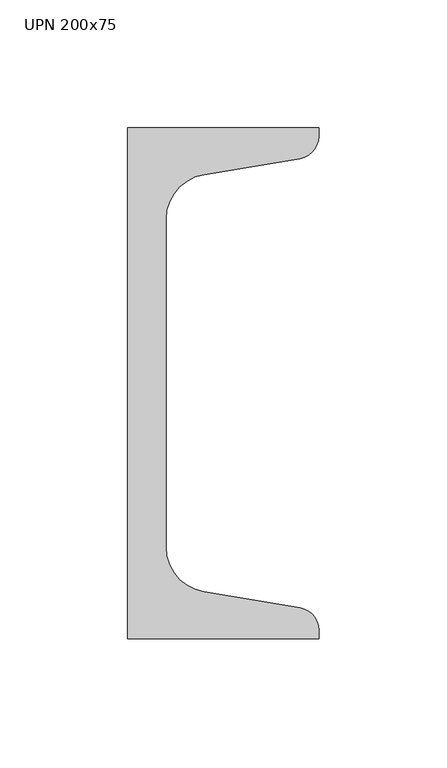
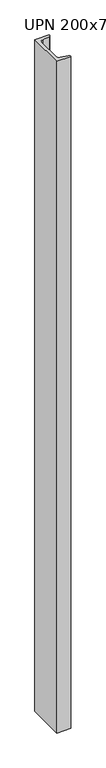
"""IFC4 building model written with IfcOpenShell, lengths in millimetres: column geometry, M_MC Shapes-Column : UPN 200x75."""

import ifcopenshell
import ifcopenshell.guid

model = None  # the IFC model being written
_history = None  # IfcOwnerHistory: only IFC2X3 demands one
_inside = {}  # id of a spatial element -> (the spatial element, [elements in it])
_under = {}  # id of a project, library or spatial element -> (it, [spatial elements below it])
_declared = {}  # id of a project -> (the project, [libraries it declares])
_typed = {}  # id of a type object -> (the type object, [elements of that type])
_made_of = {}  # id of a material, layer set ... -> (it, [elements and type objects made of it])


def new_model(schema):
    """Start an empty IFC model of exactly this schema.

    Asked for "IFC4X3", IfcOpenShell would pick the latest addendum, in which some entities
    have other attributes; the version numbers below select the first issue.
    IFC2X3 requires an IfcOwnerHistory on every rooted entity: one is made here for all.
    """
    global model, _history
    if schema == "IFC4X3":
        model = ifcopenshell.file(schema_version=(4, 3, 0, 0))
    else:
        model = ifcopenshell.file(schema=schema)
    _inside.clear()
    _under.clear()
    _declared.clear()
    _typed.clear()
    _made_of.clear()
    _history = None
    if model.schema == "IFC2X3":
        org = make("IfcOrganization", Name="unknown")
        user = make(
            "IfcPersonAndOrganization",
            ThePerson=make("IfcPerson", FamilyName="unknown"),
            TheOrganization=org,
        )
        app = make(
            "IfcApplication",
            ApplicationDeveloper=org,
            Version="unknown",
            ApplicationFullName="unknown",
            ApplicationIdentifier="unknown",
        )
        _history = make(
            "IfcOwnerHistory",
            OwningUser=user,
            OwningApplication=app,
            ChangeAction="ADDED",
            CreationDate=0,
        )
    return model


def make(cls, **values):
    """One entity of the class cls with the attributes given. An attribute that is None is left unset."""
    return model.create_entity(
        cls, **{name: value for name, value in values.items() if value is not None}
    )


def rooted(cls, **values):
    """An entity with a GlobalId (a new one), such as an element, a storey or a relation."""
    return make(cls, GlobalId=ifcopenshell.guid.new(), OwnerHistory=_history, **values)


def si_unit(unit_type, name, prefix=None):
    """IfcSIUnit, for example si_unit("LENGTHUNIT", "METRE", prefix="MILLI")."""
    return make("IfcSIUnit", UnitType=unit_type, Prefix=prefix, Name=name)


def assignment(units):
    """IfcUnitAssignment: the units of a project."""
    return None if units is None else make("IfcUnitAssignment", Units=units)


def point(xyz):
    """IfcCartesianPoint."""
    return None if xyz is None else make("IfcCartesianPoint", Coordinates=xyz)


def direction(xyz):
    """IfcDirection."""
    return None if xyz is None else make("IfcDirection", DirectionRatios=xyz)


def frame(location, z_axis=None, x_axis=None):
    """IfcAxis2Placement3D, a coordinate frame: its origin and axes. An axis left out is left unset."""
    return make(
        "IfcAxis2Placement3D",
        Location=point(location),
        Axis=direction(z_axis),
        RefDirection=direction(x_axis),
    )


def frame_2d(location, x_axis=None):
    """IfcAxis2Placement2D, a coordinate frame in the plane: its origin and x axis."""
    return make(
        "IfcAxis2Placement2D", Location=point(location), RefDirection=direction(x_axis)
    )


def origin():
    """The frame at (0, 0, 0) with its axes left unset."""
    return frame((0.0, 0.0, 0.0))


def place(relative_to, where):
    """IfcLocalPlacement: puts the frame where relative to a parent placement (None: the world)."""
    return make(
        "IfcLocalPlacement", PlacementRelTo=relative_to, RelativePlacement=where
    )


def context(
    kind, dimensions, precision=None, world=None, true_north=None, identifier=None
):
    """IfcGeometricRepresentationContext, for example the 3D "Model" context."""
    return make(
        "IfcGeometricRepresentationContext",
        ContextIdentifier=identifier,
        ContextType=kind,
        CoordinateSpaceDimension=dimensions,
        Precision=precision,
        WorldCoordinateSystem=world,
        TrueNorth=true_north,
    )


def project(units=None, contexts=None):
    """IfcProject with its units and contexts."""
    return rooted(
        "IfcProject",
        Name="project",
        RepresentationContexts=contexts,
        UnitsInContext=assignment(units),
    )


def spatial(cls, under=None, at=None, **own):
    """A site, building, storey or space (cls), placed at a placement, below another one or the project."""
    s = rooted(cls, ObjectPlacement=at, **own)
    if under is not None:
        _under.setdefault(under.id(), (under, []))[1].append(s)
    return s


def polyline(points):
    """IfcPolyline through the points."""
    return make("IfcPolyline", Points=[point(p) for p in points])


def circle_curve(where, radius):
    """IfcCircle in the frame where."""
    return make("IfcCircle", Position=where, Radius=radius)


def trimmed(basis, trim1, trim2, sense, master):
    """IfcTrimmedCurve: the piece of a basis curve between two trims."""
    return make(
        "IfcTrimmedCurve",
        BasisCurve=basis,
        Trim1=trim1,
        Trim2=trim2,
        SenseAgreement=sense,
        MasterRepresentation=master,
    )


def segment(curve, same_sense, transition):
    """IfcCompositeCurveSegment."""
    return make(
        "IfcCompositeCurveSegment",
        Transition=transition,
        SameSense=same_sense,
        ParentCurve=curve,
    )


def composite_curve(segments, self_intersect=None):
    """IfcCompositeCurve: segments joined end to end."""
    return make("IfcCompositeCurve", Segments=segments, SelfIntersect=self_intersect)


def outline(outer, holes=None, kind="AREA"):
    """IfcArbitraryClosedProfileDef: a profile drawn as a closed curve; with holes, ...WithVoids."""
    if holes is None:
        return make("IfcArbitraryClosedProfileDef", ProfileType=kind, OuterCurve=outer)
    return make(
        "IfcArbitraryProfileDefWithVoids",
        ProfileType=kind,
        OuterCurve=outer,
        InnerCurves=holes,
    )


def extrude(swept, where, along, depth):
    """IfcExtrudedAreaSolid: the profile swept, set in the frame where, extruded along a direction by depth."""
    return make(
        "IfcExtrudedAreaSolid",
        SweptArea=swept,
        Position=where,
        ExtrudedDirection=direction(along),
        Depth=depth,
    )


def shape(context_of_items, identifier, shape_type, items):
    """IfcShapeRepresentation: the items that make up one representation, for example the "Body"."""
    return make(
        "IfcShapeRepresentation",
        ContextOfItems=context_of_items,
        RepresentationIdentifier=identifier,
        RepresentationType=shape_type,
        Items=items,
    )


def source(mapping_origin, context_of_items, identifier, shape_type, items):
    """IfcRepresentationMap: a shape defined once, which mapped items show again and again."""
    return make(
        "IfcRepresentationMap",
        MappingOrigin=mapping_origin,
        MappedRepresentation=shape(context_of_items, identifier, shape_type, items),
    )


def transform(
    local_origin,
    x_axis=None,
    y_axis=None,
    z_axis=None,
    scale=None,
    scale2=None,
    scale3=None,
    uniform=True,
):
    """IfcCartesianTransformationOperator3D, or its non-uniform kind. x_axis, y_axis, z_axis: its Axis1, 2, 3."""
    if uniform:
        return make(
            "IfcCartesianTransformationOperator3D",
            Axis1=direction(x_axis),
            Axis2=direction(y_axis),
            LocalOrigin=point(local_origin),
            Scale=scale,
            Axis3=direction(z_axis),
        )
    return make(
        "IfcCartesianTransformationOperator3DnonUniform",
        Axis1=direction(x_axis),
        Axis2=direction(y_axis),
        LocalOrigin=point(local_origin),
        Scale=scale,
        Axis3=direction(z_axis),
        Scale2=scale2,
        Scale3=scale3,
    )


def mapped(mapping_source, mapping_target):
    """IfcMappedItem: shows the shape of a source again, moved by a transform."""
    return make(
        "IfcMappedItem", MappingSource=mapping_source, MappingTarget=mapping_target
    )


def made_of(thing, what):
    """Note that an element or type object is made of a material, layer set ...; save() writes the relation."""
    if what is not None:
        _made_of.setdefault(what.id(), (what, []))[1].append(thing)
    return thing


def element(
    cls,
    number,
    at=None,
    inside=None,
    cuts=None,
    type_object=None,
    material=None,
    context=None,
    identifier="Body",
    shape_type=None,
    held_by="IfcProductDefinitionShape",
    body=None,
    shapes=None,
    **own,
):
    """One element of the class cls, such as IfcWall. Its Tag is "e" and its number.

    at: its placement. inside: the storey or other place that contains it. cuts: it is an
    opening in that element (IfcRelVoidsElement). A single representation is given by context,
    identifier, shape_type and body (its items); several are given by shapes. held_by: the class
    of the entity that holds the representations. save() writes the other relations.
    """
    e = rooted(cls, Tag="e%d" % number, ObjectPlacement=at, **own)
    if body is not None:
        shapes = [shape(context, identifier, shape_type, body)]
    if shapes is not None:
        e.Representation = make(held_by, Representations=shapes)
    if inside is not None:
        _inside.setdefault(inside.id(), (inside, []))[1].append(e)
    if cuts is not None:
        rooted(
            "IfcRelVoidsElement", RelatingBuildingElement=cuts, RelatedOpeningElement=e
        )
    if type_object is not None:
        _typed.setdefault(type_object.id(), (type_object, []))[1].append(e)
    return made_of(e, material)


def aggregate(whole, parts):
    """IfcRelAggregates: a whole, such as a stair, and the parts it consists of."""
    return rooted("IfcRelAggregates", RelatingObject=whole, RelatedObjects=parts)


def save(model, path):
    """Write the relations noted so far, then the file.

    IfcRelAggregates (storeys below a building ...), IfcRelContainedInSpatialStructure (elements
    in a storey), IfcRelDefinesByType, IfcRelAssociatesMaterial and IfcRelDeclares: one each for
    every whole, place, type object, material and project.
    """
    for whole, parts in _under.values():
        aggregate(whole, parts)
    for where, things in _inside.values():
        rooted(
            "IfcRelContainedInSpatialStructure",
            RelatedElements=things,
            RelatingStructure=where,
        )
    for kind, things in _typed.values():
        rooted("IfcRelDefinesByType", RelatedObjects=things, RelatingType=kind)
    for what, things in _made_of.values():
        rooted("IfcRelAssociatesMaterial", RelatedObjects=things, RelatingMaterial=what)
    for by, libraries in _declared.values():
        rooted("IfcRelDeclares", RelatingContext=by, RelatedDefinitions=libraries)
    model.write(path)


def upn_200x75_1933780c(model_context):
    return source(origin(), model_context, "Body", "SweptSolid", [
        extrude(outline(composite_curve([segment(polyline([(-26.4, -100.0), (-26.4, 100.0), (48.6, 100.0), (48.6, 96.7227759)]), True, "CONTINUOUS"), segment(trimmed(circle_curve(frame_2d((39.7, 96.7227759)), 8.9), [point((48.6, 96.7227759))], [point((41.1631538, 87.9438705))], False, "CARTESIAN"), True, "CONTINUOUS"), segment(polyline([(41.1631538, 87.9438705), (3.4736923, 81.662281)]), True, "CONTINUOUS"), segment(trimmed(circle_curve(frame_2d((6.4, 64.1044701)), 17.8), [point((3.4736923, 81.662281))], [point((-11.4, 64.1044701))], True, "CARTESIAN"), True, "CONTINUOUS"), segment(polyline([(-11.4, 64.1044701), (-11.4, -64.1044701)]), True, "CONTINUOUS"), segment(trimmed(circle_curve(frame_2d((6.4, -64.1044701)), 17.8), [point((-11.4, -64.1044701))], [point((3.4736923, -81.662281))], True, "CARTESIAN"), True, "CONTINUOUS"), segment(polyline([(3.4736923, -81.662281), (41.1631538, -87.9438705)]), True, "CONTINUOUS"), segment(trimmed(circle_curve(frame_2d((39.7, -96.7227759)), 8.9), [point((41.1631538, -87.9438705))], [point((48.6, -96.7227759))], False, "CARTESIAN"), True, "CONTINUOUS"), segment(polyline([(48.6, -96.7227759), (48.6, -100.0), (-26.4, -100.0)]), True, "CONTINUOUS")], self_intersect=False)), frame((0.0, 0.0, 18660.0), z_axis=(0.0, 0.0, 1.0), x_axis=(1.0, 0.0, 0.0)), (0.0, 0.0, 1.0), 3750.0),
    ])


if __name__ == "__main__":
    model = new_model("IFC4")
    model_context = context("Model", 3, world=origin())
    ifc_project = project(units=[si_unit("LENGTHUNIT", "METRE", prefix="MILLI")], contexts=[model_context])
    site = spatial("IfcSite", under=ifc_project)
    building = spatial("IfcBuilding", under=site)
    placement = place(None, origin())
    upn_200x75_shape = upn_200x75_1933780c(model_context)
    element("IfcColumn", 1, ObjectType="M_MC Shapes-Column : UPN 200x75", at=placement, inside=building, context=model_context, shape_type="MappedRepresentation", body=[
        mapped(upn_200x75_shape, transform((0.0, 0.0, 0.0), x_axis=(1.0, 0.0, 0.0), y_axis=(0.0, 1.0, 0.0), z_axis=(0.0, 0.0, 1.0))),
    ])
    save(model, "model.ifc")
